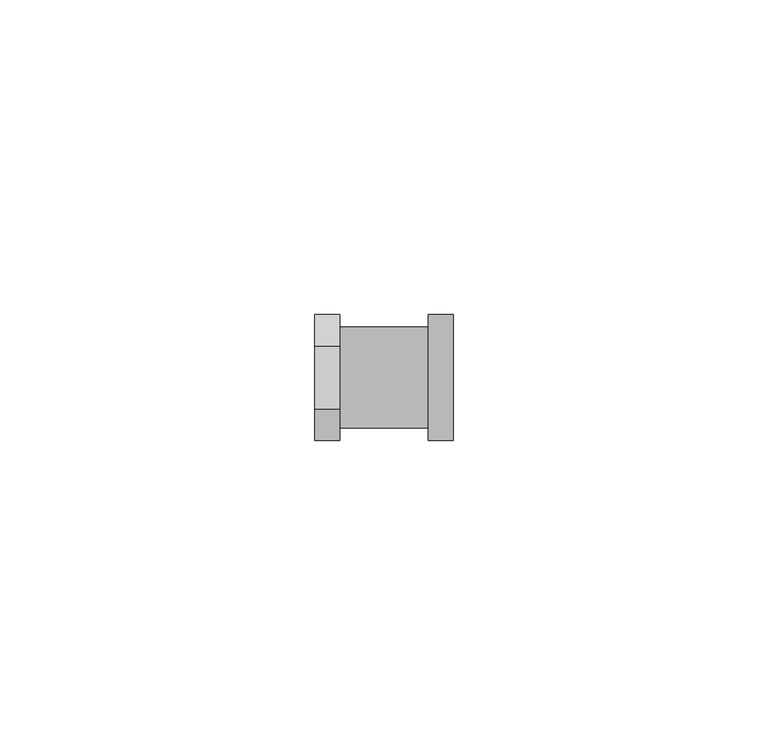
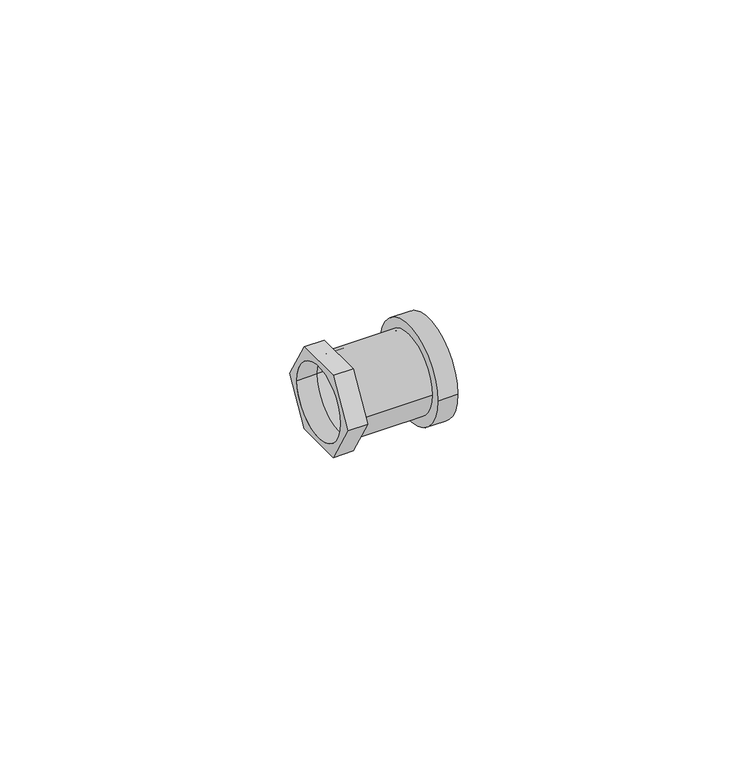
"""IFC4 building model written with IfcOpenShell, lengths in millimetres: pipe fitting geometry, БИР ПЕКС_НПР_Соединитель_Гайка накидная : Соединитель прямой с накидной гайкой."""

from ifc_helpers import new_model, si_unit, point, frame, origin, origin_2d, place, context, project, spatial, polyline, circle_curve, trimmed, segment, composite_curve, outline, extrude, source, transform, mapped, element, save


def pipe_fitting_d950e0f4(model_context):
    return source(origin(), model_context, "Body", "SweptSolid", [
        extrude(outline(polyline([(-5.0, -8.660254), (-10.0, 0.0), (-5.0, 8.660254), (5.0, 8.660254), (10.0, 0.0), (5.0, -8.660254), (-5.0, -8.660254)]), holes=[composite_curve([segment(trimmed(circle_curve(origin_2d(), 7.5), [point((-7.5, 0.0))], [point((7.5, 0.0))], True, "CARTESIAN"), True, "CONTINUOUS"), segment(trimmed(circle_curve(origin_2d(), 7.5), [point((7.5, 0.0))], [point((-7.5, 0.0))], True, "CARTESIAN"), True, "CONTINUOUS")], self_intersect=False)]), frame((-11.0, 0.0, 0.0), z_axis=(1.0, 0.0, 0.0), x_axis=(0.0, 1.0, 0.0)), (0.0, 0.0, 1.0), 4.0),
        extrude(outline(composite_curve([segment(trimmed(circle_curve(origin_2d(), 8.0), [point((-8.0, 0.0))], [point((8.0, 0.0))], False, "CARTESIAN"), True, "CONTINUOUS"), segment(trimmed(circle_curve(origin_2d(), 8.0), [point((8.0, 0.0))], [point((-8.0, 0.0))], False, "CARTESIAN"), True, "CONTINUOUS")], self_intersect=False), holes=[composite_curve([segment(trimmed(circle_curve(origin_2d(), 7.5), [point((-7.5, 0.0))], [point((7.5, 0.0))], True, "CARTESIAN"), True, "CONTINUOUS"), segment(trimmed(circle_curve(origin_2d(), 7.5), [point((7.5, 0.0))], [point((-7.5, 0.0))], True, "CARTESIAN"), True, "CONTINUOUS")], self_intersect=False)]), frame((-7.0, 0.0, 0.0), z_axis=(1.0, 0.0, 0.0), x_axis=(0.0, 1.0, 0.0)), (0.0, 0.0, 1.0), 14.0),
        extrude(outline(composite_curve([segment(trimmed(circle_curve(origin_2d(), 10.0), [point((-10.0, 0.0))], [point((10.0, 0.0))], False, "CARTESIAN"), True, "CONTINUOUS"), segment(trimmed(circle_curve(origin_2d(), 10.0), [point((10.0, 0.0))], [point((-10.0, 0.0))], False, "CARTESIAN"), True, "CONTINUOUS")], self_intersect=False), holes=[composite_curve([segment(trimmed(circle_curve(origin_2d(), 7.5), [point((-7.5, 0.0))], [point((7.5, 0.0))], True, "CARTESIAN"), True, "CONTINUOUS"), segment(trimmed(circle_curve(origin_2d(), 7.5), [point((7.5, 0.0))], [point((-7.5, 0.0))], True, "CARTESIAN"), True, "CONTINUOUS")], self_intersect=False)]), frame((7.0, 0.0, 0.0), z_axis=(1.0, 0.0, 0.0), x_axis=(0.0, 1.0, 0.0)), (0.0, 0.0, 1.0), 4.0),
    ])


if __name__ == "__main__":
    model = new_model("IFC4")
    model_context = context("Model", 3, world=origin())
    ifc_project = project(units=[si_unit("LENGTHUNIT", "METRE", prefix="MILLI")], contexts=[model_context])
    site = spatial("IfcSite", under=ifc_project)
    building = spatial("IfcBuilding", under=site)
    placement = place(None, origin())
    pipe_fitting_shape = pipe_fitting_d950e0f4(model_context)
    element("IfcPipeFitting", 1, ObjectType="БИР ПЕКС_НПР_Соединитель_Гайка накидная : Соединитель прямой с накидной гайкой", at=placement, inside=building, context=model_context, shape_type="MappedRepresentation", body=[
        mapped(pipe_fitting_shape, transform((0.0, 0.0, 0.0), x_axis=(1.0, 0.0, 0.0), y_axis=(0.0, 1.0, 0.0), z_axis=(0.0, 0.0, 1.0))),
    ])
    save(model, "model.ifc")
